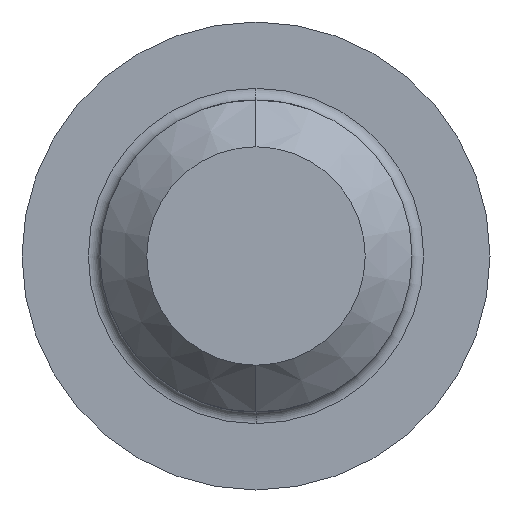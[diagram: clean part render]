
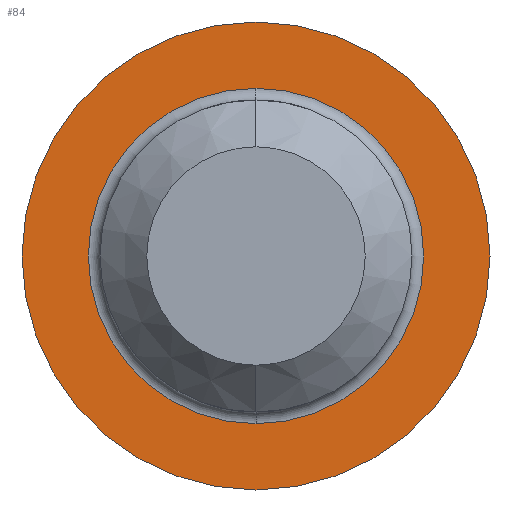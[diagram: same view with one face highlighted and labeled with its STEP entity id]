
A CAD part, left-side view. The second image highlights one B-rep face of the part: STEP entity #84.
In plain terms, the highlighted planar face has unit normal (-1, 0, 0).
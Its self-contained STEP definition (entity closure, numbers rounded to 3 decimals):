
#6 = EDGE_CURVE ( 'NONE', #122, #120, #229, .T. ) ;
#9 = ORIENTED_EDGE ( 'NONE', *, *, #6, .T. ) ;
#27 = ORIENTED_EDGE ( 'NONE', *, *, #78, .T. ) ;
#46 = ORIENTED_EDGE ( 'NONE', *, *, #99, .T. ) ;
#47 = EDGE_LOOP ( 'NONE', ( #50, #27 ) ) ;
#50 = ORIENTED_EDGE ( 'NONE', *, *, #141, .T. ) ;
#54 = VERTEX_POINT ( 'NONE', #226 ) ;
#78 = EDGE_CURVE ( 'NONE', #54, #93, #220, .T. ) ;
#84 = ADVANCED_FACE ( 'NONE', ( #215, #207 ), #214, .F. ) ;
#93 = VERTEX_POINT ( 'NONE', #331 ) ;
#99 = EDGE_CURVE ( 'NONE', #120, #122, #330, .T. ) ;
#116 = CARTESIAN_POINT ( 'NONE',  ( 0., 0., 4.3 ) ) ;
#120 = VERTEX_POINT ( 'NONE', #116 ) ;
#122 = VERTEX_POINT ( 'NONE', #398 ) ;
#129 = EDGE_LOOP ( 'NONE', ( #9, #46 ) ) ;
#141 = EDGE_CURVE ( 'NONE', #93, #54, #535, .T. ) ;
#177 = CARTESIAN_POINT ( 'NONE',  ( 0., 6., 0. ) ) ;
#202 = DIRECTION ( 'NONE',  ( 0., 0., -1. ) ) ;
#203 = DIRECTION ( 'NONE',  ( 1., 0., 0. ) ) ;
#207 = FACE_OUTER_BOUND ( 'NONE', #47, .T. ) ;
#209 = AXIS2_PLACEMENT_3D ( 'NONE', #177, #203, #202 ) ;
#210 = DIRECTION ( 'NONE',  ( 0., 0., 1. ) ) ;
#211 = DIRECTION ( 'NONE',  ( -1., 0., 0. ) ) ;
#212 = CARTESIAN_POINT ( 'NONE',  ( 0., 0., 0. ) ) ;
#213 = AXIS2_PLACEMENT_3D ( 'NONE', #212, #211, #210 ) ;
#214 = PLANE ( 'NONE',  #209 ) ;
#215 = FACE_BOUND ( 'NONE', #129, .T. ) ;
#220 = CIRCLE ( 'NONE', #213, 6. ) ;
#224 = DIRECTION ( 'NONE',  ( 0., 0., -1. ) ) ;
#225 = AXIS2_PLACEMENT_3D ( 'NONE', #348, #326, #224 ) ;
#226 = CARTESIAN_POINT ( 'NONE',  ( 0., 0., -6. ) ) ;
#229 = CIRCLE ( 'NONE', #225, 4.3 ) ;
#326 = DIRECTION ( 'NONE',  ( 1., 0., 0. ) ) ;
#330 = CIRCLE ( 'NONE', #381, 4.3 ) ;
#331 = CARTESIAN_POINT ( 'NONE',  ( 0., 0., 6. ) ) ;
#348 = CARTESIAN_POINT ( 'NONE',  ( 0., 0., 0. ) ) ;
#368 = DIRECTION ( 'NONE',  ( 0., 0., -1. ) ) ;
#369 = DIRECTION ( 'NONE',  ( 1., 0., 0. ) ) ;
#379 = CARTESIAN_POINT ( 'NONE',  ( 0., 0., 0. ) ) ;
#381 = AXIS2_PLACEMENT_3D ( 'NONE', #379, #369, #368 ) ;
#398 = CARTESIAN_POINT ( 'NONE',  ( 0., 0., -4.3 ) ) ;
#535 = CIRCLE ( 'NONE', #541, 6. ) ;
#538 = DIRECTION ( 'NONE',  ( 0., 0., 1. ) ) ;
#539 = DIRECTION ( 'NONE',  ( -1., 0., 0. ) ) ;
#540 = CARTESIAN_POINT ( 'NONE',  ( 0., 0., 0. ) ) ;
#541 = AXIS2_PLACEMENT_3D ( 'NONE', #540, #539, #538 ) ;
